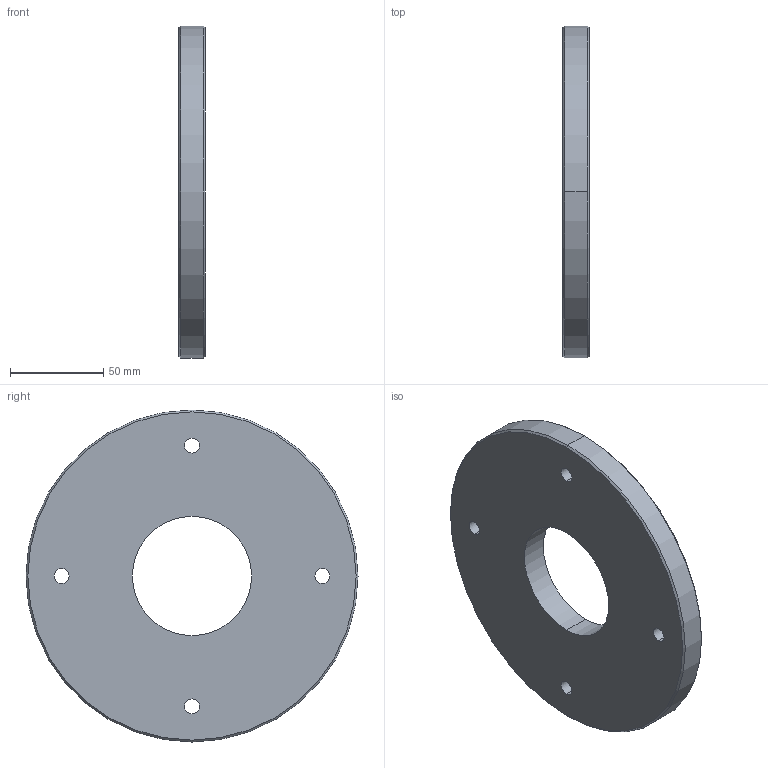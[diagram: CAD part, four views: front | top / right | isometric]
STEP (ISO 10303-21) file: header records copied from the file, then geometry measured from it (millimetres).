
FILE_DESCRIPTION (( 'STEP AP214' ), '1' );
FILE_NAME ('E38SL-6L2.5.STEP', '2016-05-23T04:42:23', ( 'eran' ), ( '' ), 'SwSTEP 2.0', 'SolidWorks 2016', '' );
FILE_SCHEMA (( 'AUTOMOTIVE_DESIGN' ));
Length unit declared in the file: millimetre
Products named in the file (1): E38SL-6L2.5
Bounding box: 14.3 x 177.8 x 177.8 mm (x, y, z)
Volume: 305902.4 mm3; surface area: 54495.8 mm2
Topology: 1 solids, 1 shells, 18 faces, 44 edges, 28 vertices
Faces by surface type: cylinder 12, cone 4, plane 2
Entity records: 598 total; most frequent: DIRECTION 110, CARTESIAN_POINT 91, ORIENTED_EDGE 88, AXIS2_PLACEMENT_3D 47, EDGE_CURVE 44, VERTEX_POINT 28, EDGE_LOOP 28, CIRCLE 28
